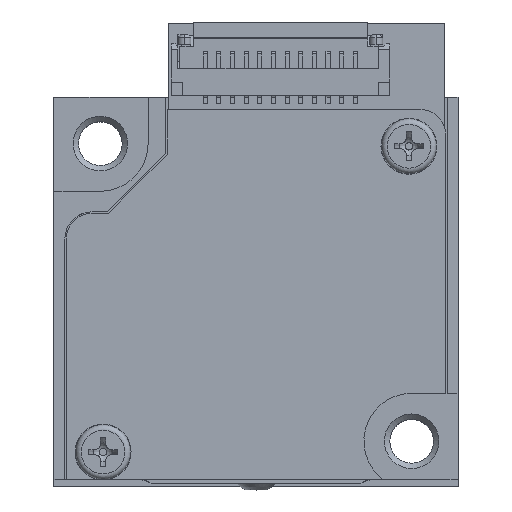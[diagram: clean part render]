
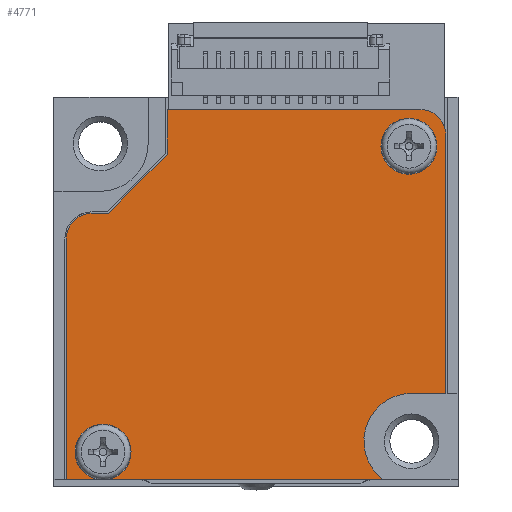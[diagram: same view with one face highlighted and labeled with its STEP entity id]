
A CAD part, top view. The second image highlights one B-rep face of the part: STEP entity #4771.
In plain terms, the highlighted planar face has unit normal (0, 0, 1).
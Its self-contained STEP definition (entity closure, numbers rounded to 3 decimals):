
#481=LINE('',#17418,#1977);
#484=LINE('',#17424,#1980);
#485=LINE('',#17426,#1981);
#491=LINE('',#17439,#1987);
#494=LINE('',#17445,#1990);
#497=LINE('',#17451,#1993);
#500=LINE('',#17458,#1996);
#502=LINE('',#17464,#1998);
#503=LINE('',#17468,#1999);
#1977=VECTOR('',#13954,1.);
#1980=VECTOR('',#13959,1.);
#1981=VECTOR('',#13962,1.);
#1987=VECTOR('',#13970,1.);
#1990=VECTOR('',#13975,1.);
#1993=VECTOR('',#13980,1.);
#1996=VECTOR('',#13985,1.);
#1998=VECTOR('',#13991,1.);
#1999=VECTOR('',#13994,1.);
#3654=PLANE('',#12816);
#4771=ADVANCED_FACE('',(#5346,#5347),#3654,.F.);
#5346=FACE_BOUND('',#5493,.T.);
#5347=FACE_BOUND('',#5494,.T.);
#5493=EDGE_LOOP('',(#6481));
#5494=EDGE_LOOP('',(#6482,#6483,#6484,#6485,#6486,#6487,#6488,#6489,#6490,
#6491,#6492,#6493,#6494));
#6481=ORIENTED_EDGE('',*,*,#10925,.T.);
#6482=ORIENTED_EDGE('',*,*,#10923,.T.);
#6483=ORIENTED_EDGE('',*,*,#10926,.T.);
#6484=ORIENTED_EDGE('',*,*,#10927,.T.);
#6485=ORIENTED_EDGE('',*,*,#10928,.T.);
#6486=ORIENTED_EDGE('',*,*,#10898,.T.);
#6487=ORIENTED_EDGE('',*,*,#10904,.T.);
#6488=ORIENTED_EDGE('',*,*,#10907,.T.);
#6489=ORIENTED_EDGE('',*,*,#10929,.T.);
#6490=ORIENTED_EDGE('',*,*,#10908,.T.);
#6491=ORIENTED_EDGE('',*,*,#10914,.T.);
#6492=ORIENTED_EDGE('',*,*,#10917,.T.);
#6493=ORIENTED_EDGE('',*,*,#10920,.T.);
#6494=ORIENTED_EDGE('',*,*,#10930,.T.);
#9667=VERTEX_POINT('',#17406);
#9668=VERTEX_POINT('',#17407);
#9672=VERTEX_POINT('',#17417);
#9674=VERTEX_POINT('',#17423);
#9675=VERTEX_POINT('',#17427);
#9676=VERTEX_POINT('',#17428);
#9680=VERTEX_POINT('',#17438);
#9682=VERTEX_POINT('',#17444);
#9684=VERTEX_POINT('',#17450);
#9687=VERTEX_POINT('',#17457);
#9688=VERTEX_POINT('',#17459);
#9689=VERTEX_POINT('',#17463);
#9690=VERTEX_POINT('',#17465);
#9691=VERTEX_POINT('',#17467);
#10898=EDGE_CURVE('',#9667,#9668,#12480,.T.);
#10904=EDGE_CURVE('',#9668,#9672,#481,.T.);
#10907=EDGE_CURVE('',#9672,#9674,#484,.T.);
#10908=EDGE_CURVE('',#9675,#9676,#485,.T.);
#10914=EDGE_CURVE('',#9676,#9680,#491,.T.);
#10917=EDGE_CURVE('',#9680,#9682,#494,.T.);
#10920=EDGE_CURVE('',#9682,#9684,#497,.T.);
#10923=EDGE_CURVE('',#9688,#9687,#500,.T.);
#10925=EDGE_CURVE('',#9689,#9689,#12482,.T.);
#10926=EDGE_CURVE('',#9687,#9690,#502,.T.);
#10927=EDGE_CURVE('',#9690,#9691,#12483,.T.);
#10928=EDGE_CURVE('',#9691,#9667,#503,.T.);
#10929=EDGE_CURVE('',#9674,#9675,#12484,.T.);
#10930=EDGE_CURVE('',#9684,#9688,#12485,.T.);
#12480=CIRCLE('',#12802,1.75);
#12482=CIRCLE('',#12812,1.025);
#12483=CIRCLE('',#12813,1.025);
#12484=CIRCLE('',#12814,0.95);
#12485=CIRCLE('',#12815,0.95);
#12802=AXIS2_PLACEMENT_3D('',#17405,#13944,#13945);
#12812=AXIS2_PLACEMENT_3D('',#17462,#13989,#13990);
#12813=AXIS2_PLACEMENT_3D('',#17466,#13992,#13993);
#12814=AXIS2_PLACEMENT_3D('',#17469,#13995,#13996);
#12815=AXIS2_PLACEMENT_3D('',#17470,#13997,#13998);
#12816=AXIS2_PLACEMENT_3D('',#17471,#13999,#14000);
#13944=DIRECTION('',(0.,0.,-1.));
#13945=DIRECTION('',(1.,0.,0.));
#13954=DIRECTION('',(1.,0.,0.));
#13959=DIRECTION('',(0.,1.,0.));
#13962=DIRECTION('',(-1.,0.,0.));
#13970=DIRECTION('',(0.,-1.,0.));
#13975=DIRECTION('',(-0.707,-0.707,0.));
#13980=DIRECTION('',(-1.,0.,0.));
#13985=DIRECTION('',(0.,-1.,0.));
#13989=DIRECTION('',(0.,0.,-1.));
#13990=DIRECTION('',(-1.,0.,0.));
#13991=DIRECTION('',(1.,0.,0.));
#13992=DIRECTION('',(0.,0.,-1.));
#13993=DIRECTION('',(-1.,0.,0.));
#13994=DIRECTION('',(1.,0.,0.));
#13995=DIRECTION('',(0.,0.,1.));
#13996=DIRECTION('',(-1.,0.,0.));
#13997=DIRECTION('',(0.,0.,1.));
#13998=DIRECTION('',(-1.,0.,0.));
#13999=DIRECTION('',(0.,0.,-1.));
#14000=DIRECTION('',(-1.,0.,0.));
#17405=CARTESIAN_POINT('',(5.7,9.65,0.1));
#17406=CARTESIAN_POINT('',(4.65,8.25,0.1));
#17407=CARTESIAN_POINT('',(5.7,11.4,0.1));
#17417=CARTESIAN_POINT('',(6.95,11.4,0.1));
#17418=CARTESIAN_POINT('',(5.7,11.4,0.1));
#17423=CARTESIAN_POINT('',(6.95,20.85,0.1));
#17424=CARTESIAN_POINT('',(6.95,11.4,0.1));
#17426=CARTESIAN_POINT('',(6.95,21.8,0.1));
#17427=CARTESIAN_POINT('',(6.,21.8,0.1));
#17428=CARTESIAN_POINT('',(-3.25,21.8,0.1));
#17438=CARTESIAN_POINT('',(-3.25,20.156,0.1));
#17439=CARTESIAN_POINT('',(-3.25,21.8,0.1));
#17444=CARTESIAN_POINT('',(-5.406,18.,0.1));
#17445=CARTESIAN_POINT('',(-3.25,20.156,0.1));
#17450=CARTESIAN_POINT('',(-6.,18.,0.1));
#17451=CARTESIAN_POINT('',(-5.406,18.,0.1));
#17457=CARTESIAN_POINT('',(-6.95,8.25,0.1));
#17458=CARTESIAN_POINT('',(-6.95,16.456,0.1));
#17459=CARTESIAN_POINT('',(-6.95,17.05,0.1));
#17462=CARTESIAN_POINT('',(5.6,20.45,0.1));
#17463=CARTESIAN_POINT('',(4.575,20.45,0.1));
#17464=CARTESIAN_POINT('',(5.7,8.25,0.1));
#17465=CARTESIAN_POINT('',(-5.825,8.25,0.1));
#17466=CARTESIAN_POINT('',(-5.6,9.25,0.1));
#17467=CARTESIAN_POINT('',(-5.375,8.25,0.1));
#17468=CARTESIAN_POINT('',(5.7,8.25,0.1));
#17469=CARTESIAN_POINT('',(6.,20.85,0.1));
#17470=CARTESIAN_POINT('',(-6.,17.05,0.1));
#17471=CARTESIAN_POINT('',(5.7,9.65,0.1));
